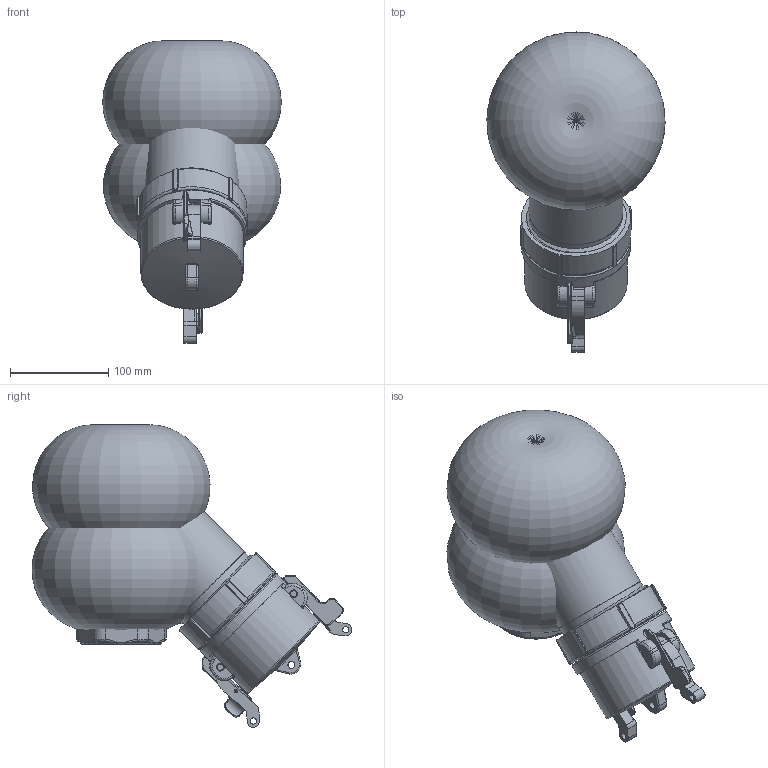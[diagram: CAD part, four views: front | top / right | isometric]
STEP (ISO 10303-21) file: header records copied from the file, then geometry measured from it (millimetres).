
FILE_DESCRIPTION(/* description */ ('Alibre Inc.'),/* implementation_level */ '2;1');
FILE_NAME(/* name */ 'export0',/* time_stamp */ '2016-07-19T10:00:02-04:00',/* author */ (''),/* organization */ (''),/* preprocessor_version */ 'ST-DEVELOPER v14',/* originating_system */ 'Alibre',/* authorisation */ '');
FILE_SCHEMA (('CONFIG_CONTROL_DESIGN'));
Length unit declared in the file: centimetre
Products named in the file (10): ID_1
Bounding box: 181.78 x 325.93 x 308.21 mm (x, y, z)
Volume: 1927387.4 mm3; surface area: 828850.6 mm2
Topology: 12 solids, 12 shells, 769 faces, 1892 edges, 1140 vertices
Faces by surface type: cylinder 281, plane 185, torus 129, bspline 128, cone 29, sphere 17
Full cylindrical faces by diameter (mm): 6.35 x2, 7.112 x1, 7.874 x4, 7.925 x4, 8.179 x4, 44.45 x1, 50.8 x1, 56.337 x2, 56.388 x17, 57.15 x2, 66.04 x1, 67.818 x1, 68.326 x2, 69.088 x2, 69.85 x2, 73.189 x1, 73.203 x1, 73.209 x1, 75.184 x1, 81.28 x1, 83.109 x1, 88.392 x1, 91.52 x1, 91.542 x2, 92.71 x1, 95.25 x1, 95.26 x4, 96.012 x1, 100.584 x2, 104.394 x1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
Entity records: 61925 total; most frequent: CARTESIAN_POINT 47750, ORIENTED_EDGE 2888, DIRECTION 2337, EDGE_CURVE 1444, AXIS2_PLACEMENT_3D 1064, VERTEX_POINT 901, EDGE_LOOP 729, FACE_BOUND 729
